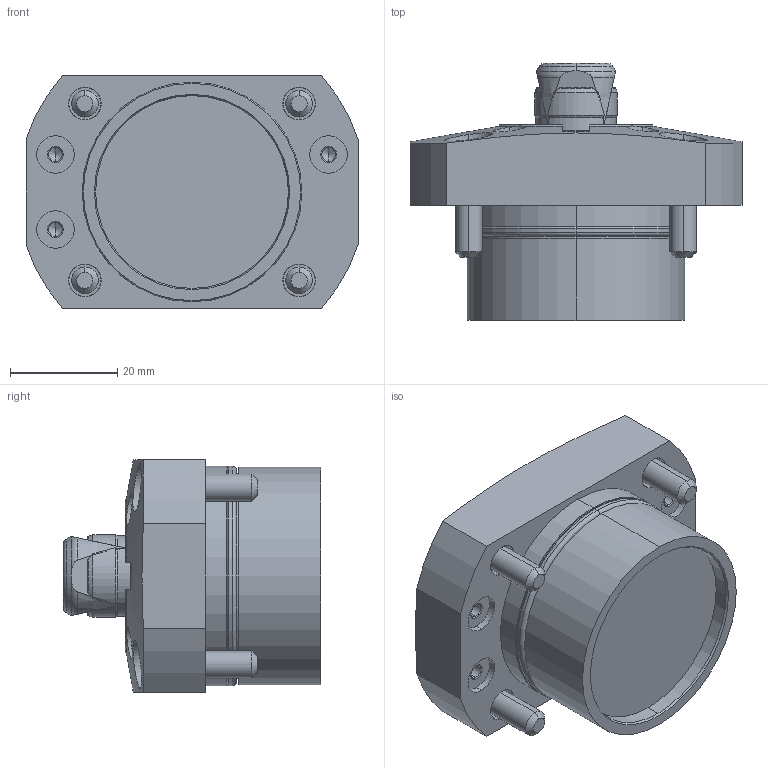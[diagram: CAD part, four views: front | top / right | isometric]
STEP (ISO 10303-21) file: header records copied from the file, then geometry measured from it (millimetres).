
FILE_DESCRIPTION (( 'STEP AP203' ), '1' );
FILE_NAME ('SFH2160_N.STEP', '2010-11-03T23:20:18', ( ' ' ), ( ' ' ), 'SwSTEP 2.0', 'SolidWorks 2010', '' );
FILE_SCHEMA (( 'CONFIG_CONTROL_DESIGN' ));
Length unit declared in the file: millimetre
Products named in the file (7): SFH2160-N_套菁轤礁诎蔬晅; φ16_ｽﾘｰﾌﾞ-N; SFH2160_N; SFH2_钾堇轤O剌皋晅; 冇16_郫霓; 6妏寠晅无倌_M3_10; 6妏寠晅无倌_M5_16
Assembly tree (12 placements, depth 2):
  SFH2160_N
    6妏寠晅无倌_M5_16  x4
    SFH2160-N_套菁轤礁诎蔬晅
    6妏寠晅无倌_M3_10  x4
    SFH2_钾堇轤O剌皋晅
    φ16_ｽﾘｰﾌﾞ-N
    冇16_郫霓
Bounding box: 62 x 48 x 43.5 mm (x, y, z)
Volume: 60557.8 mm3; surface area: 22110.2 mm2
Topology: 16 solids, 16 shells, 478 faces, 987 edges, 548 vertices
Faces by surface type: plane 187, cone 156, cylinder 116, torus 19
Entity records: 9801 total; most frequent: CARTESIAN_POINT 2420, DIRECTION 1428, ORIENTED_EDGE 1302, EDGE_CURVE 651, AXIS2_PLACEMENT_3D 600, VERTEX_POINT 398, EDGE_LOOP 329, CIRCLE 293
